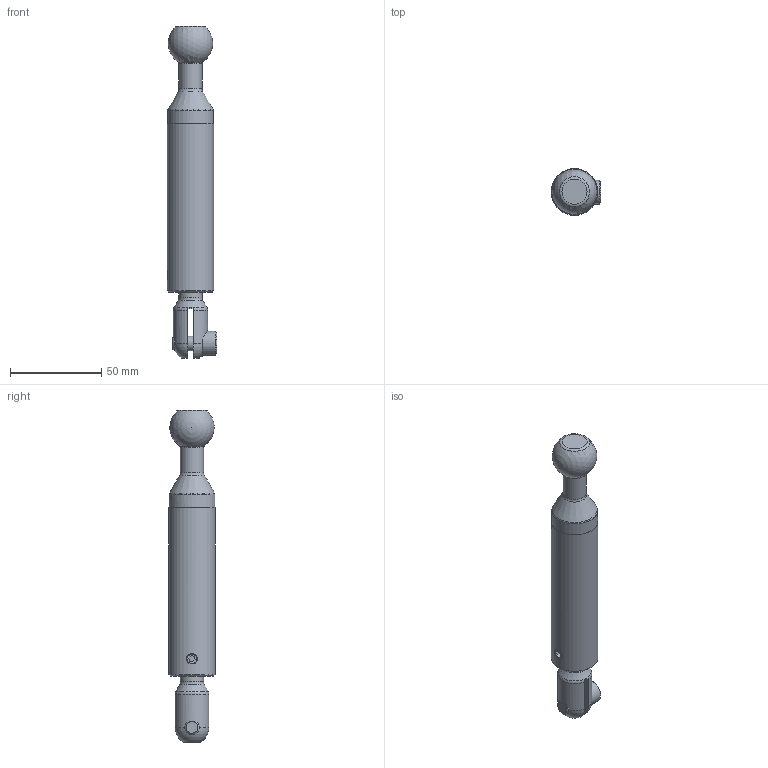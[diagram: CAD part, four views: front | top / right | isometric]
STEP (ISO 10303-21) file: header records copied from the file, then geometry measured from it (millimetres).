
FILE_DESCRIPTION(/* description */ (''),/* implementation_level */ '2;1');
FILE_NAME(/* name */ 'C:\Users\owner\Desktop\PL SERIES\PL_POSTS\PL-TPOST2IN-BK.stp',/* time_stamp */ '2017-09-28T09:13:08-04:00',/* author */ ('owner'),/* organization */ (''),/* preprocessor_version */ 'ST-DEVELOPER v16.5',/* originating_system */ 'Autodesk Inventor 2017',/* authorisation */ '');
FILE_SCHEMA (('CONFIG_CONTROL_DESIGN'));
Length unit declared in the file: inch
Products named in the file (7): PL-TPOST2IN-BK; 60039; 60007; 60046; 60057; 60054; 60040
Assembly tree (6 placements, depth 2):
  PL-TPOST2IN-BK
    60039
    60007
    60046
    60057
    60054
    60040
Bounding box: 27.06 x 25.4 x 181.52 mm (x, y, z)
Volume: 69581 mm3; surface area: 25343.3 mm2
Topology: 6 solids, 6 shells, 918 faces, 2492 edges, 1653 vertices
Faces by surface type: bspline 397, plane 389, cylinder 107, cone 13, torus 9, sphere 3
Full cylindrical faces by diameter (mm): 4 x1, 4.928 x1, 6 x1, 6.655 x1, 7.912 x1, 7.95 x1, 8 x1, 8.357 x1, 12.611 x1, 12.7 x2, 12.769 x1, 13 x1, 13.785 x1, 13.83 x1, 13.886 x1, 25.146 x1, 25.4 x1
Entity records: 38291 total; most frequent: CARTESIAN_POINT 17760, ORIENTED_EDGE 4770, DIRECTION 3091, EDGE_CURVE 2385, VERTEX_POINT 1605, LINE 1165, VECTOR 1165, EDGE_LOOP 1046
